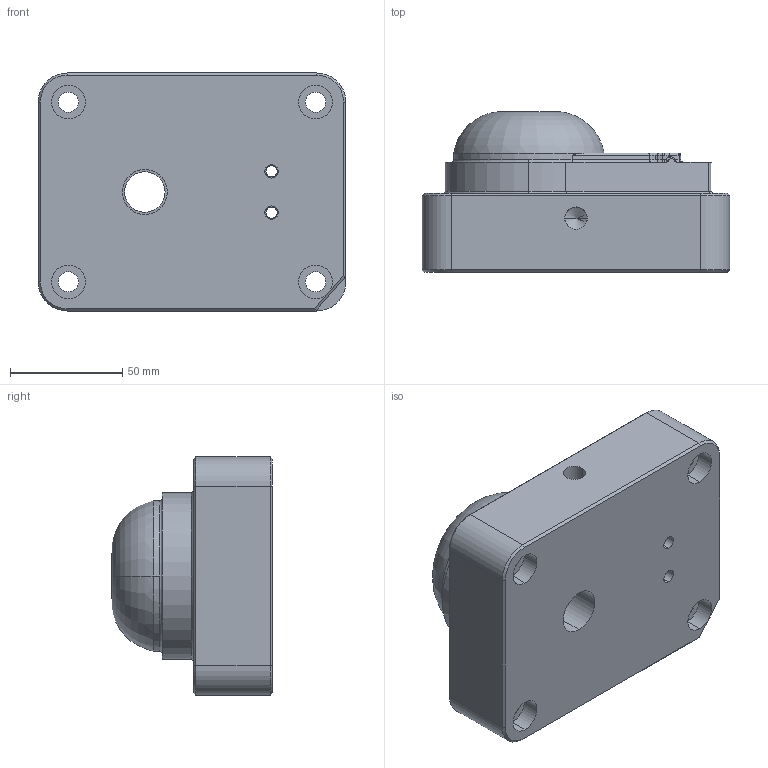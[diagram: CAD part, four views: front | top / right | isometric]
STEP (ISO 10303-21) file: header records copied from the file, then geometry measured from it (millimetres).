
FILE_DESCRIPTION (( 'STEP AP203' ), '1' );
FILE_NAME ('bloc noyau PM.STEP', '2011-03-09T15:14:16', ( 'Aurelien Penaud' ), ( 'Microsoft' ), 'SwSTEP 2.0', 'SolidWorks 2010', '' );
FILE_SCHEMA (( 'CONFIG_CONTROL_DESIGN' ));
Length unit declared in the file: millimetre
Products named in the file (1): bloc noyau PM
Bounding box: 137 x 71.5 x 106 mm (x, y, z)
Volume: 589983.7 mm3; surface area: 67713.3 mm2
Topology: 1 solids, 1 shells, 170 faces, 412 edges, 239 vertices
Faces by surface type: cylinder 81, plane 41, torus 20, cone 17, sphere 6, bspline 5
Entity records: 5759 total; most frequent: CARTESIAN_POINT 1722, DIRECTION 886, ORIENTED_EDGE 798, EDGE_CURVE 399, AXIS2_PLACEMENT_3D 357, VERTEX_POINT 239, EDGE_LOOP 196, CIRCLE 191
